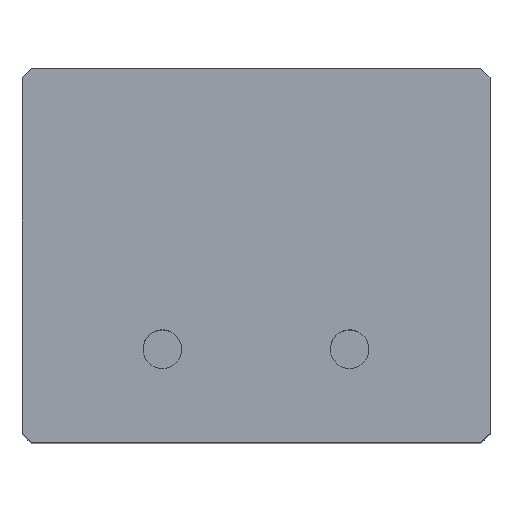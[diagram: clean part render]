
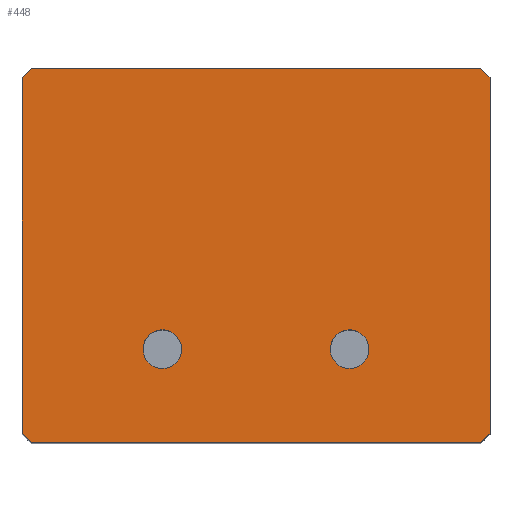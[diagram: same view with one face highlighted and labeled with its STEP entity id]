
A CAD part, top view. The second image highlights one B-rep face of the part: STEP entity #448.
In plain terms, the highlighted planar face has unit normal (0, 0, 1).
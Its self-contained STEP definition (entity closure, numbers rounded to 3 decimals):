
#168=AXIS2_PLACEMENT_3D('Circle Axis2P3D',#166,#167,$) ;
#194=AXIS2_PLACEMENT_3D('Circle Axis2P3D',#192,#193,$) ;
#211=AXIS2_PLACEMENT_3D('Circle Axis2P3D',#209,#210,$) ;
#237=AXIS2_PLACEMENT_3D('Circle Axis2P3D',#235,#236,$) ;
#395=AXIS2_PLACEMENT_3D('Plane Axis2P3D',#392,#393,#394) ;
#166=CARTESIAN_POINT('Axis2P3D Location',(-10.,-10.,99.)) ;
#170=CARTESIAN_POINT('Vertex',(-8.186,-10.991,99.)) ;
#172=CARTESIAN_POINT('Vertex',(-11.814,-9.009,99.)) ;
#192=CARTESIAN_POINT('Axis2P3D Location',(-10.,-10.,99.)) ;
#209=CARTESIAN_POINT('Axis2P3D Location',(10.,-10.,99.)) ;
#213=CARTESIAN_POINT('Vertex',(8.186,-9.009,99.)) ;
#215=CARTESIAN_POINT('Vertex',(11.814,-10.991,99.)) ;
#235=CARTESIAN_POINT('Axis2P3D Location',(10.,-10.,99.)) ;
#301=CARTESIAN_POINT('Vertex',(25.,19.,99.)) ;
#315=CARTESIAN_POINT('Vertex',(24.,20.,99.)) ;
#318=CARTESIAN_POINT('Line Origine',(24.5,19.5,99.)) ;
#341=CARTESIAN_POINT('Vertex',(-24.,20.,99.)) ;
#344=CARTESIAN_POINT('Line Origine',(0.,20.,99.)) ;
#377=CARTESIAN_POINT('Vertex',(-25.,19.,99.)) ;
#380=CARTESIAN_POINT('Line Origine',(-24.5,19.5,99.)) ;
#392=CARTESIAN_POINT('Axis2P3D Location',(0.,0.,99.)) ;
#397=CARTESIAN_POINT('Line Origine',(0.,-20.,99.)) ;
#401=CARTESIAN_POINT('Vertex',(-24.,-20.,99.)) ;
#403=CARTESIAN_POINT('Vertex',(24.,-20.,99.)) ;
#406=CARTESIAN_POINT('Line Origine',(24.5,-19.5,99.)) ;
#410=CARTESIAN_POINT('Vertex',(25.,-19.,99.)) ;
#413=CARTESIAN_POINT('Line Origine',(25.,0.,99.)) ;
#418=CARTESIAN_POINT('Line Origine',(-25.,0.,99.)) ;
#422=CARTESIAN_POINT('Vertex',(-25.,-19.,99.)) ;
#425=CARTESIAN_POINT('Line Origine',(-24.5,-19.5,99.)) ;
#167=DIRECTION('Axis2P3D Direction',(0.,-0.,-1.)) ;
#193=DIRECTION('Axis2P3D Direction',(0.,-0.,-1.)) ;
#210=DIRECTION('Axis2P3D Direction',(0.,0.,-1.)) ;
#236=DIRECTION('Axis2P3D Direction',(0.,0.,-1.)) ;
#319=DIRECTION('Vector Direction',(-0.707,0.707,0.)) ;
#345=DIRECTION('Vector Direction',(1.,0.,0.)) ;
#381=DIRECTION('Vector Direction',(0.707,0.707,0.)) ;
#393=DIRECTION('Axis2P3D Direction',(0.,0.,1.)) ;
#394=DIRECTION('Axis2P3D XDirection',(1.,0.,0.)) ;
#398=DIRECTION('Vector Direction',(-1.,0.,0.)) ;
#407=DIRECTION('Vector Direction',(-0.707,-0.707,0.)) ;
#414=DIRECTION('Vector Direction',(0.,-1.,0.)) ;
#419=DIRECTION('Vector Direction',(0.,1.,0.)) ;
#426=DIRECTION('Vector Direction',(0.707,-0.707,0.)) ;
#320=VECTOR('Line Direction',#319,1.) ;
#346=VECTOR('Line Direction',#345,1.) ;
#382=VECTOR('Line Direction',#381,1.) ;
#399=VECTOR('Line Direction',#398,1.) ;
#408=VECTOR('Line Direction',#407,1.) ;
#415=VECTOR('Line Direction',#414,1.) ;
#420=VECTOR('Line Direction',#419,1.) ;
#427=VECTOR('Line Direction',#426,1.) ;
#431=ORIENTED_EDGE('',*,*,#405,.T.) ;
#432=ORIENTED_EDGE('',*,*,#412,.F.) ;
#433=ORIENTED_EDGE('',*,*,#417,.T.) ;
#434=ORIENTED_EDGE('',*,*,#322,.F.) ;
#435=ORIENTED_EDGE('',*,*,#348,.T.) ;
#436=ORIENTED_EDGE('',*,*,#384,.F.) ;
#437=ORIENTED_EDGE('',*,*,#424,.T.) ;
#438=ORIENTED_EDGE('',*,*,#429,.F.) ;
#441=ORIENTED_EDGE('',*,*,#239,.F.) ;
#442=ORIENTED_EDGE('',*,*,#217,.F.) ;
#445=ORIENTED_EDGE('',*,*,#196,.F.) ;
#446=ORIENTED_EDGE('',*,*,#174,.F.) ;
#443=FACE_BOUND('',#440,.T.) ;
#447=FACE_BOUND('',#444,.T.) ;
#448=ADVANCED_FACE('\X2\96F64EF651E04F554F53\X0\',(#439,#443,#447),#396,.T.) ;
#169=CIRCLE('generated circle',#168,2.067) ;
#195=CIRCLE('generated circle',#194,2.067) ;
#212=CIRCLE('generated circle',#211,2.067) ;
#238=CIRCLE('generated circle',#237,2.067) ;
#174=EDGE_CURVE('',#171,#173,#169,.F.) ;
#196=EDGE_CURVE('',#173,#171,#195,.F.) ;
#217=EDGE_CURVE('',#214,#216,#212,.F.) ;
#239=EDGE_CURVE('',#216,#214,#238,.F.) ;
#322=EDGE_CURVE('',#316,#302,#321,.F.) ;
#348=EDGE_CURVE('',#316,#342,#347,.F.) ;
#384=EDGE_CURVE('',#378,#342,#383,.T.) ;
#405=EDGE_CURVE('',#402,#404,#400,.F.) ;
#412=EDGE_CURVE('',#411,#404,#409,.T.) ;
#417=EDGE_CURVE('',#411,#302,#416,.F.) ;
#424=EDGE_CURVE('',#378,#423,#421,.F.) ;
#429=EDGE_CURVE('',#402,#423,#428,.F.) ;
#430=EDGE_LOOP('',(#431,#432,#433,#434,#435,#436,#437,#438)) ;
#440=EDGE_LOOP('',(#441,#442)) ;
#444=EDGE_LOOP('',(#445,#446)) ;
#439=FACE_OUTER_BOUND('',#430,.T.) ;
#321=LINE('Line',#318,#320) ;
#347=LINE('Line',#344,#346) ;
#383=LINE('Line',#380,#382) ;
#400=LINE('Line',#397,#399) ;
#409=LINE('Line',#406,#408) ;
#416=LINE('Line',#413,#415) ;
#421=LINE('Line',#418,#420) ;
#428=LINE('Line',#425,#427) ;
#396=PLANE('',#395) ;
#171=VERTEX_POINT('',#170) ;
#173=VERTEX_POINT('',#172) ;
#214=VERTEX_POINT('',#213) ;
#216=VERTEX_POINT('',#215) ;
#302=VERTEX_POINT('',#301) ;
#316=VERTEX_POINT('',#315) ;
#342=VERTEX_POINT('',#341) ;
#378=VERTEX_POINT('',#377) ;
#402=VERTEX_POINT('',#401) ;
#404=VERTEX_POINT('',#403) ;
#411=VERTEX_POINT('',#410) ;
#423=VERTEX_POINT('',#422) ;
